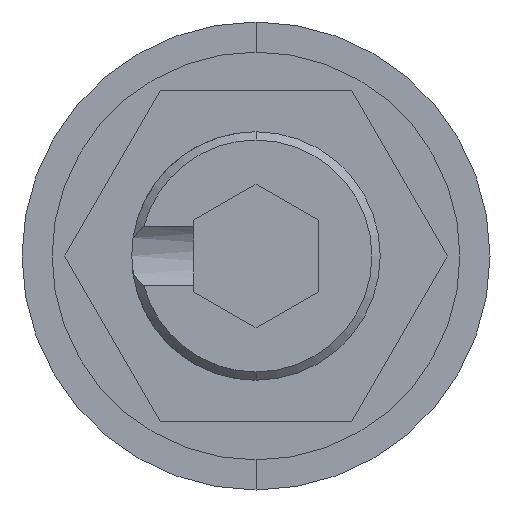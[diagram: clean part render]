
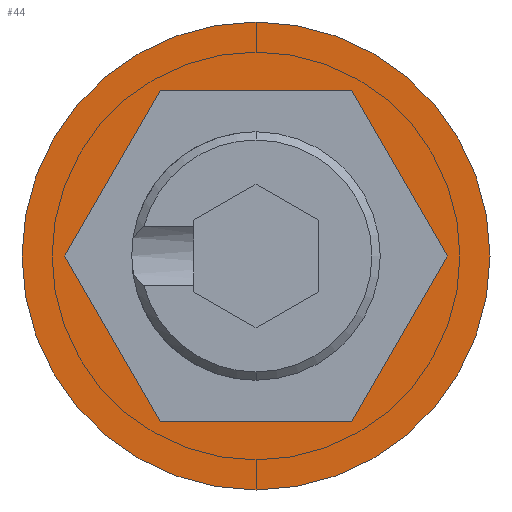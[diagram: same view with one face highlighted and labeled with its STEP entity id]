
A CAD part, front view. The second image highlights one B-rep face of the part: STEP entity #44.
In plain terms, the highlighted planar face has unit normal (0, -1, 0).
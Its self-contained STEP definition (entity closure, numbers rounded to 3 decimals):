
#26 = VERTEX_POINT ( 'NONE', #237 ) ;
#38 = CARTESIAN_POINT ( 'NONE',  ( 2.309, 0., 4. ) ) ;
#44 = ADVANCED_FACE ( 'NONE', ( #1200, #1052 ), #368, .T. ) ;
#46 = DIRECTION ( 'NONE',  ( -0.5, 0., -0.866 ) ) ;
#116 = DIRECTION ( 'NONE',  ( 0., 0., -1. ) ) ;
#131 = VERTEX_POINT ( 'NONE', #738 ) ;
#133 = CARTESIAN_POINT ( 'NONE',  ( 0., 0., 0. ) ) ;
#167 = CIRCLE ( 'NONE', #212, 5.65 ) ;
#198 = CARTESIAN_POINT ( 'NONE',  ( 0., 0., 5.65 ) ) ;
#208 = ORIENTED_EDGE ( 'NONE', *, *, #2040, .F. ) ;
#212 = AXIS2_PLACEMENT_3D ( 'NONE', #133, #275, #428 ) ;
#220 = CARTESIAN_POINT ( 'NONE',  ( -2.309, 0., -4. ) ) ;
#222 = CARTESIAN_POINT ( 'NONE',  ( -2.309, 0., 4. ) ) ;
#237 = CARTESIAN_POINT ( 'NONE',  ( 0., 0., -5.65 ) ) ;
#274 = VERTEX_POINT ( 'NONE', #222 ) ;
#275 = DIRECTION ( 'NONE',  ( 0., -1., 0. ) ) ;
#281 = VERTEX_POINT ( 'NONE', #198 ) ;
#287 = EDGE_CURVE ( 'NONE', #274, #359, #1286, .T. ) ;
#306 = CARTESIAN_POINT ( 'NONE',  ( 0., 0., 0. ) ) ;
#315 = VERTEX_POINT ( 'NONE', #38 ) ;
#359 = VERTEX_POINT ( 'NONE', #1789 ) ;
#368 = PLANE ( 'NONE',  #629 ) ;
#371 = DIRECTION ( 'NONE',  ( 0., -1., 0. ) ) ;
#428 = DIRECTION ( 'NONE',  ( 0., 0., -1. ) ) ;
#431 = DIRECTION ( 'NONE',  ( -0.5, 0., 0.866 ) ) ;
#442 = ORIENTED_EDGE ( 'NONE', *, *, #287, .F. ) ;
#476 = CIRCLE ( 'NONE', #935, 5.65 ) ;
#478 = ORIENTED_EDGE ( 'NONE', *, *, #1814, .F. ) ;
#479 = EDGE_LOOP ( 'NONE', ( #1775, #478, #442, #1723, #1347, #208 ) ) ;
#512 = VERTEX_POINT ( 'NONE', #1695 ) ;
#540 = DIRECTION ( 'NONE',  ( 0.5, 0., -0.866 ) ) ;
#561 = CARTESIAN_POINT ( 'NONE',  ( -4.619, 0., 0. ) ) ;
#577 = VECTOR ( 'NONE', #1116, 1000. ) ;
#629 = AXIS2_PLACEMENT_3D ( 'NONE', #306, #371, #116 ) ;
#718 = VECTOR ( 'NONE', #1049, 1000. ) ;
#724 = EDGE_CURVE ( 'NONE', #281, #26, #476, .T. ) ;
#731 = LINE ( 'NONE', #2044, #1994 ) ;
#738 = CARTESIAN_POINT ( 'NONE',  ( 2.309, 0., -4. ) ) ;
#745 = VECTOR ( 'NONE', #540, 1000. ) ;
#840 = LINE ( 'NONE', #561, #745 ) ;
#874 = DIRECTION ( 'NONE',  ( 0.5, 0., 0.866 ) ) ;
#935 = AXIS2_PLACEMENT_3D ( 'NONE', #1530, #1536, #1545 ) ;
#1033 = CARTESIAN_POINT ( 'NONE',  ( 2.309, 0., -4. ) ) ;
#1049 = DIRECTION ( 'NONE',  ( 1., 0., 0. ) ) ;
#1052 = FACE_OUTER_BOUND ( 'NONE', #1589, .T. ) ;
#1091 = EDGE_CURVE ( 'NONE', #1322, #315, #731, .T. ) ;
#1108 = LINE ( 'NONE', #1033, #1936 ) ;
#1109 = CARTESIAN_POINT ( 'NONE',  ( 2.309, 0., 4. ) ) ;
#1116 = DIRECTION ( 'NONE',  ( -1., 0., 0. ) ) ;
#1195 = ORIENTED_EDGE ( 'NONE', *, *, #1873, .T. ) ;
#1200 = FACE_BOUND ( 'NONE', #479, .T. ) ;
#1286 = LINE ( 'NONE', #1900, #2105 ) ;
#1322 = VERTEX_POINT ( 'NONE', #1623 ) ;
#1347 = ORIENTED_EDGE ( 'NONE', *, *, #1091, .F. ) ;
#1530 = CARTESIAN_POINT ( 'NONE',  ( 0., 0., 0. ) ) ;
#1536 = DIRECTION ( 'NONE',  ( 0., -1., 0. ) ) ;
#1545 = DIRECTION ( 'NONE',  ( 0., 0., -1. ) ) ;
#1589 = EDGE_LOOP ( 'NONE', ( #1195, #1857 ) ) ;
#1623 = CARTESIAN_POINT ( 'NONE',  ( 4.619, 0., 0. ) ) ;
#1657 = EDGE_CURVE ( 'NONE', #315, #274, #1894, .T. ) ;
#1695 = CARTESIAN_POINT ( 'NONE',  ( -2.309, 0., -4. ) ) ;
#1723 = ORIENTED_EDGE ( 'NONE', *, *, #1657, .F. ) ;
#1775 = ORIENTED_EDGE ( 'NONE', *, *, #2012, .F. ) ;
#1789 = CARTESIAN_POINT ( 'NONE',  ( -4.619, 0., 0. ) ) ;
#1814 = EDGE_CURVE ( 'NONE', #359, #512, #840, .T. ) ;
#1857 = ORIENTED_EDGE ( 'NONE', *, *, #724, .T. ) ;
#1873 = EDGE_CURVE ( 'NONE', #26, #281, #167, .T. ) ;
#1894 = LINE ( 'NONE', #1109, #577 ) ;
#1900 = CARTESIAN_POINT ( 'NONE',  ( -2.309, 0., 4. ) ) ;
#1936 = VECTOR ( 'NONE', #874, 1000. ) ;
#1994 = VECTOR ( 'NONE', #431, 1000. ) ;
#2012 = EDGE_CURVE ( 'NONE', #512, #131, #2086, .T. ) ;
#2040 = EDGE_CURVE ( 'NONE', #131, #1322, #1108, .T. ) ;
#2044 = CARTESIAN_POINT ( 'NONE',  ( 4.619, 0., 0. ) ) ;
#2086 = LINE ( 'NONE', #220, #718 ) ;
#2105 = VECTOR ( 'NONE', #46, 1000. ) ;
